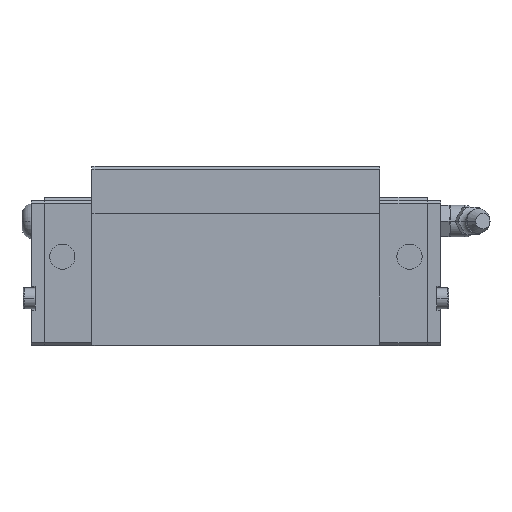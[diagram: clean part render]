
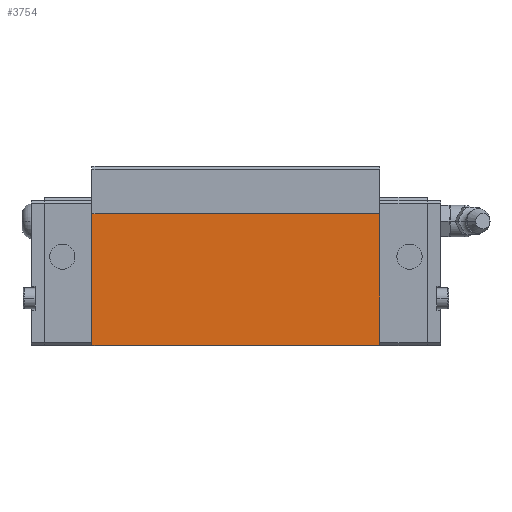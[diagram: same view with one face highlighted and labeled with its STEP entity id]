
A CAD part, left-side view. The second image highlights one B-rep face of the part: STEP entity #3754.
In plain terms, the highlighted planar face has unit normal (-1, 0, 0).
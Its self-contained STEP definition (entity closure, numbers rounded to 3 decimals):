
#1970=VERTEX_POINT('',#5077);
#2468=VERTEX_POINT('',#5631);
#3406=EDGE_CURVE('',#2468,#3580,#6669,.T.);
#3580=VERTEX_POINT('',#6862);
#3586=EDGE_CURVE('',#1970,#2468,#6868,.T.);
#3630=EDGE_CURVE('',#4456,#3580,#6915,.T.);
#3754=ADVANCED_FACE('',(#7047),#7048,.T.);
#4456=VERTEX_POINT('',#7816);
#4480=EDGE_CURVE('',#4456,#1970,#7842,.T.);
#5077=CARTESIAN_POINT('',(-42.2,20.5,9.7));
#5631=CARTESIAN_POINT('',(-42.2,117.5,9.7));
#6669=LINE('',#11121,#11122);
#6862=CARTESIAN_POINT('',(-42.2,117.5,54.0));
#6868=LINE('',#11413,#11414);
#6915=LINE('',#11485,#11486);
#7047=FACE_OUTER_BOUND('',#11705,.T.);
#7048=PLANE('',#11706);
#7816=CARTESIAN_POINT('',(-42.2,20.5,54.0));
#7842=LINE('',#12864,#12865);
#11121=CARTESIAN_POINT('',(-42.2,117.5,29.375));
#11122=VECTOR('',#15462,1.0);
#11413=CARTESIAN_POINT('',(-42.2,93.25,9.7));
#11414=VECTOR('',#15704,1.0);
#11485=CARTESIAN_POINT('',(-42.2,69.0,54.0));
#11486=VECTOR('',#15740,1.0);
#11705=EDGE_LOOP('',(#15846,#15847,#15848,#15849));
#11706=AXIS2_PLACEMENT_3D('',#15850,#15851,#15852);
#12864=CARTESIAN_POINT('',(-42.2,20.5,29.375));
#12865=VECTOR('',#16686,1.0);
#15462=DIRECTION('',(0.0,0.0,1.0));
#15704=DIRECTION('',(0.0,1.0,-0.0));
#15740=DIRECTION('',(0.0,1.0,0.0));
#15846=ORIENTED_EDGE('',*,*,#3406,.F.);
#15847=ORIENTED_EDGE('',*,*,#3586,.F.);
#15848=ORIENTED_EDGE('',*,*,#4480,.F.);
#15849=ORIENTED_EDGE('',*,*,#3630,.T.);
#15850=CARTESIAN_POINT('',(-42.2,69.0,19.0));
#15851=DIRECTION('',(-1.0,0.0,0.0));
#15852=DIRECTION('',(0.0,0.0,1.0));
#16686=DIRECTION('',(-0.0,-0.0,-1.0));
